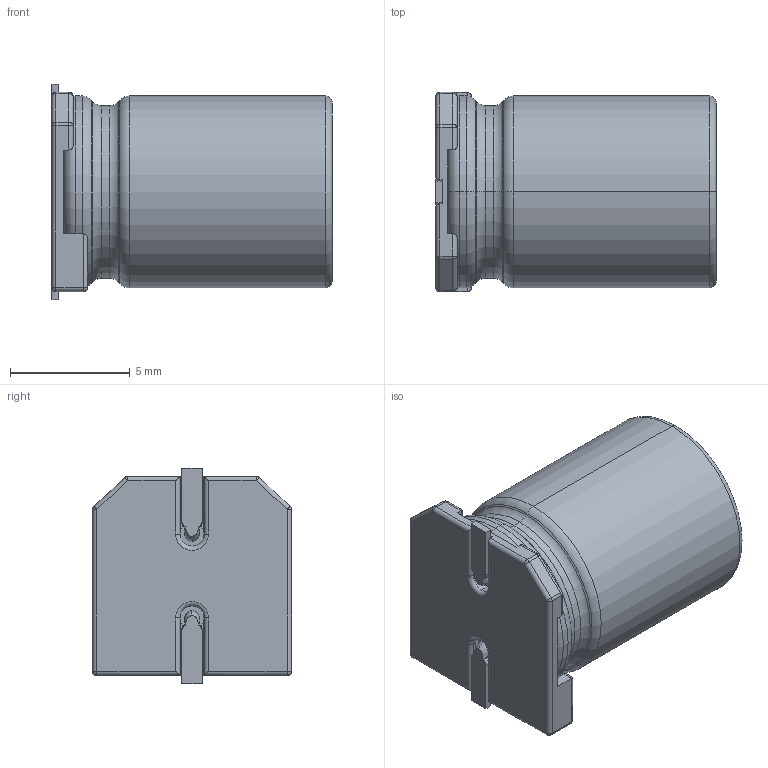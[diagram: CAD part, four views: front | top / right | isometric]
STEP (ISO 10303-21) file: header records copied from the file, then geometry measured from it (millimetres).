
FILE_DESCRIPTION((''),'2;1');
FILE_NAME('HYBRIDSMD8X117_ASM','2020-06-03T',('xy'),(''),'PRO/ENGINEER BY PARAMETRIC TECHNOLOGY CORPORATION, 2009380','PRO/ENGINEER BY PARAMETRIC TECHNOLOGY CORPORATION, 2009380','');
FILE_SCHEMA(('CONFIG_CONTROL_DESIGN'));
Length unit declared in the file: millimetre
Products named in the file (3): HYBRIDSMD8X117; ZB8A; HYBRIDSMD8X117_ASM
Assembly tree (2 placements, depth 2):
  HYBRIDSMD8X117_ASM
    HYBRIDSMD8X117
    ZB8A
Bounding box: 11.7 x 8.3 x 9 mm (x, y, z)
Volume: 586.7 mm3; surface area: 562.3 mm2
Topology: 2 solids, 2 shells, 519 faces, 1376 edges, 880 vertices
Faces by surface type: plane 393, cylinder 69, torus 21, sphere 20, bspline 12, cone 4
Entity records: 16294 total; most frequent: CARTESIAN_POINT 3310, ORIENTED_EDGE 2748, DIRECTION 2554, EDGE_CURVE 1374, VECTOR 1166, LINE 1166, VERTEX_POINT 880, AXIS2_PLACEMENT_3D 694
